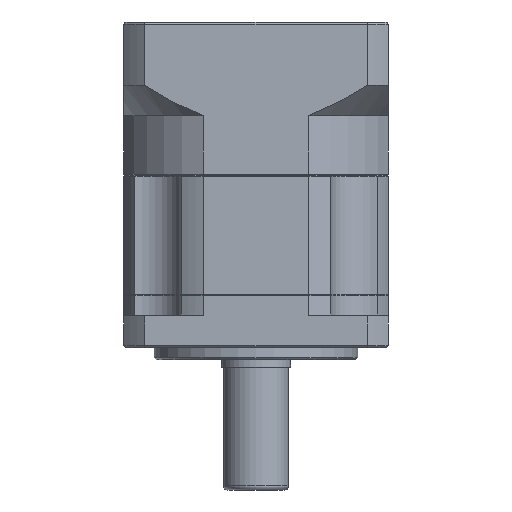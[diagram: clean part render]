
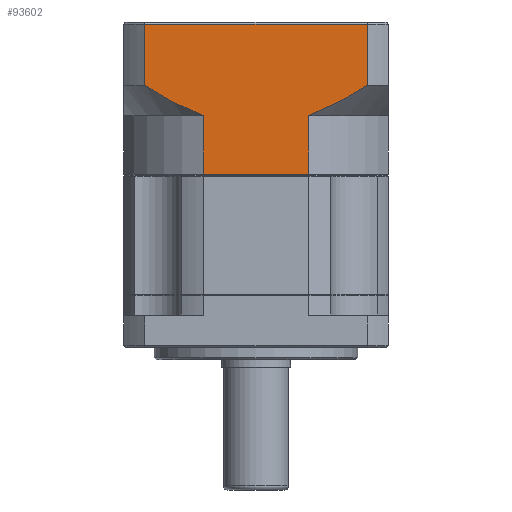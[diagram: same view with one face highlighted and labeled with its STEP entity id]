
A CAD part, front view. The second image highlights one B-rep face of the part: STEP entity #93602.
In plain terms, the highlighted planar face has unit normal (0, -1, 0).
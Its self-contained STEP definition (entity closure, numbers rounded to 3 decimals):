
#667 = DIRECTION ( 'NONE',  ( 0., 0., 1. ) ) ;
#1111 = CARTESIAN_POINT ( 'NONE',  ( -54.376, 4.23, -4.245 ) ) ;
#1373 = EDGE_CURVE ( 'NONE', #13147, #44119, #108026, .T. ) ;
#2590 = VERTEX_POINT ( 'NONE', #71726 ) ;
#5492 = CARTESIAN_POINT ( 'NONE',  ( -56.918, 4.23, -3.228 ) ) ;
#6969 = CARTESIAN_POINT ( 'NONE',  ( -15.138, 4.23, 2.522 ) ) ;
#7089 = EDGE_CURVE ( 'NONE', #116414, #35054, #56412, .T. ) ;
#7805 = CARTESIAN_POINT ( 'NONE',  ( -14., 4.23, 3.255 ) ) ;
#9578 = VECTOR ( 'NONE', #18425, 1000. ) ;
#10675 = CARTESIAN_POINT ( 'NONE',  ( -14., 4.23, 3.255 ) ) ;
#11173 = EDGE_CURVE ( 'NONE', #39316, #2590, #98779, .T. ) ;
#11200 = CARTESIAN_POINT ( 'NONE',  ( -28.395, 4.23, -18.656 ) ) ;
#11452 = AXIS2_PLACEMENT_3D ( 'NONE', #116280, #49282, #68890 ) ;
#13147 = VERTEX_POINT ( 'NONE', #42804 ) ;
#13918 = CARTESIAN_POINT ( 'NONE',  ( -54.376, 4.23, -4.245 ) ) ;
#15002 = ORIENTED_EDGE ( 'NONE', *, *, #1373, .T. ) ;
#16134 = LINE ( 'NONE', #111746, #114513 ) ;
#17813 = CARTESIAN_POINT ( 'NONE',  ( -14., 4.23, 18.255 ) ) ;
#18028 = DIRECTION ( 'NONE',  ( 0., 0., -1. ) ) ;
#18425 = DIRECTION ( 'NONE',  ( 1., 0., 0. ) ) ;
#30129 = CARTESIAN_POINT ( 'NONE',  ( -68.772, 4.23, 18.255 ) ) ;
#33160 = CARTESIAN_POINT ( 'NONE',  ( -60.607, 4.23, -1.5 ) ) ;
#33710 = VECTOR ( 'NONE', #667, 1000. ) ;
#35054 = VERTEX_POINT ( 'NONE', #101908 ) ;
#37059 = CARTESIAN_POINT ( 'NONE',  ( -28.395, 4.23, -4.245 ) ) ;
#37494 = EDGE_LOOP ( 'NONE', ( #59303, #108995, #48331, #112195, #72441, #15002, #73382, #80416 ) ) ;
#39316 = VERTEX_POINT ( 'NONE', #1111 ) ;
#42804 = CARTESIAN_POINT ( 'NONE',  ( -54.376, 4.23, -18.656 ) ) ;
#43305 = FACE_OUTER_BOUND ( 'NONE', #37494, .T. ) ;
#44119 = VERTEX_POINT ( 'NONE', #11200 ) ;
#45278 = VECTOR ( 'NONE', #48026, 1000. ) ;
#45906 = DIRECTION ( 'NONE',  ( 0., 0., 1. ) ) ;
#48026 = DIRECTION ( 'NONE',  ( -1., 0., 0. ) ) ;
#48331 = ORIENTED_EDGE ( 'NONE', *, *, #71416, .F. ) ;
#49282 = DIRECTION ( 'NONE',  ( 0., 1., 0. ) ) ;
#52731 = CARTESIAN_POINT ( 'NONE',  ( -57.542, 4.23, -2.955 ) ) ;
#55838 = CARTESIAN_POINT ( 'NONE',  ( -25.856, 4.23, -3.302 ) ) ;
#56084 = LINE ( 'NONE', #123604, #33710 ) ;
#56412 = B_SPLINE_CURVE_WITH_KNOTS ( 'NONE', 3,
 ( #7805, #6969, #82870, #94098, #121935, #73370, #55838, #37059 ),
 .UNSPECIFIED., .F., .F.,
 ( 4, 2, 2, 4 ),
 ( 0.059, 0.063, 0.067, 0.075 ),
 .UNSPECIFIED. ) ;
#57954 = LINE ( 'NONE', #79103, #120448 ) ;
#59303 = ORIENTED_EDGE ( 'NONE', *, *, #84995, .F. ) ;
#68890 = DIRECTION ( 'NONE',  ( -1., 0., 0. ) ) ;
#71416 = EDGE_CURVE ( 'NONE', #2590, #109245, #56084, .T. ) ;
#71726 = CARTESIAN_POINT ( 'NONE',  ( -68.772, 4.23, 3.255 ) ) ;
#72441 = ORIENTED_EDGE ( 'NONE', *, *, #99892, .F. ) ;
#73370 = CARTESIAN_POINT ( 'NONE',  ( -23.405, 4.23, -2.158 ) ) ;
#73382 = ORIENTED_EDGE ( 'NONE', *, *, #114449, .F. ) ;
#76407 = VERTEX_POINT ( 'NONE', #17813 ) ;
#79103 = CARTESIAN_POINT ( 'NONE',  ( -14., 4.23, 0.755 ) ) ;
#80416 = ORIENTED_EDGE ( 'NONE', *, *, #7089, .F. ) ;
#81422 = CARTESIAN_POINT ( 'NONE',  ( -59.395, 4.23, -2.105 ) ) ;
#82870 = CARTESIAN_POINT ( 'NONE',  ( -16.29, 4.23, 1.806 ) ) ;
#84995 = EDGE_CURVE ( 'NONE', #76407, #116414, #57954, .T. ) ;
#86529 = EDGE_CURVE ( 'NONE', #76407, #109245, #88462, .T. ) ;
#88462 = LINE ( 'NONE', #30129, #45278 ) ;
#90537 = CARTESIAN_POINT ( 'NONE',  ( -55.019, 4.23, -4.006 ) ) ;
#90953 = VECTOR ( 'NONE', #45906, 1000. ) ;
#93602 = ADVANCED_FACE ( 'NONE', ( #43305 ), #106338, .F. ) ;
#94098 = CARTESIAN_POINT ( 'NONE',  ( -18.625, 4.23, 0.421 ) ) ;
#98779 = B_SPLINE_CURVE_WITH_KNOTS ( 'NONE', 3,
 ( #13918, #90537, #100173, #5492, #52731, #81422, #33160, #110993, #101401, #120112 ),
 .UNSPECIFIED., .F., .F.,
 ( 4, 2, 2, 2, 4 ),
 ( 0.101, 0.104, 0.106, 0.11, 0.118 ),
 .UNSPECIFIED. ) ;
#99892 = EDGE_CURVE ( 'NONE', #13147, #39316, #122274, .T. ) ;
#100173 = CARTESIAN_POINT ( 'NONE',  ( -55.657, 4.23, -3.754 ) ) ;
#101401 = CARTESIAN_POINT ( 'NONE',  ( -66.503, 4.23, 1.793 ) ) ;
#101908 = CARTESIAN_POINT ( 'NONE',  ( -28.395, 4.23, -4.245 ) ) ;
#102501 = CARTESIAN_POINT ( 'NONE',  ( -54.376, 4.23, -4.245 ) ) ;
#103368 = CARTESIAN_POINT ( 'NONE',  ( -8.886, 4.23, -18.656 ) ) ;
#106338 = PLANE ( 'NONE',  #11452 ) ;
#108026 = LINE ( 'NONE', #103368, #9578 ) ;
#108995 = ORIENTED_EDGE ( 'NONE', *, *, #86529, .T. ) ;
#109245 = VERTEX_POINT ( 'NONE', #122052 ) ;
#110993 = CARTESIAN_POINT ( 'NONE',  ( -64.188, 4.23, 0.405 ) ) ;
#111746 = CARTESIAN_POINT ( 'NONE',  ( -28.395, 4.23, -4.245 ) ) ;
#112195 = ORIENTED_EDGE ( 'NONE', *, *, #11173, .F. ) ;
#114449 = EDGE_CURVE ( 'NONE', #35054, #44119, #16134, .T. ) ;
#114513 = VECTOR ( 'NONE', #18028, 1000. ) ;
#116280 = CARTESIAN_POINT ( 'NONE',  ( -8.886, 4.23, 18.755 ) ) ;
#116414 = VERTEX_POINT ( 'NONE', #10675 ) ;
#117325 = DIRECTION ( 'NONE',  ( 0., 0., -1. ) ) ;
#120112 = CARTESIAN_POINT ( 'NONE',  ( -68.772, 4.23, 3.255 ) ) ;
#120448 = VECTOR ( 'NONE', #117325, 1000. ) ;
#121935 = CARTESIAN_POINT ( 'NONE',  ( -19.811, 4.23, -0.249 ) ) ;
#122052 = CARTESIAN_POINT ( 'NONE',  ( -68.772, 4.23, 18.255 ) ) ;
#122274 = LINE ( 'NONE', #102501, #90953 ) ;
#123604 = CARTESIAN_POINT ( 'NONE',  ( -68.772, 4.23, 0.755 ) ) ;
